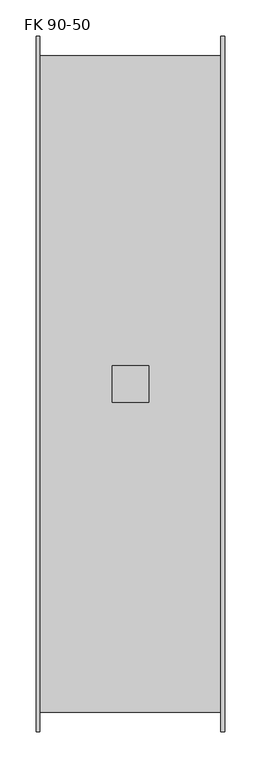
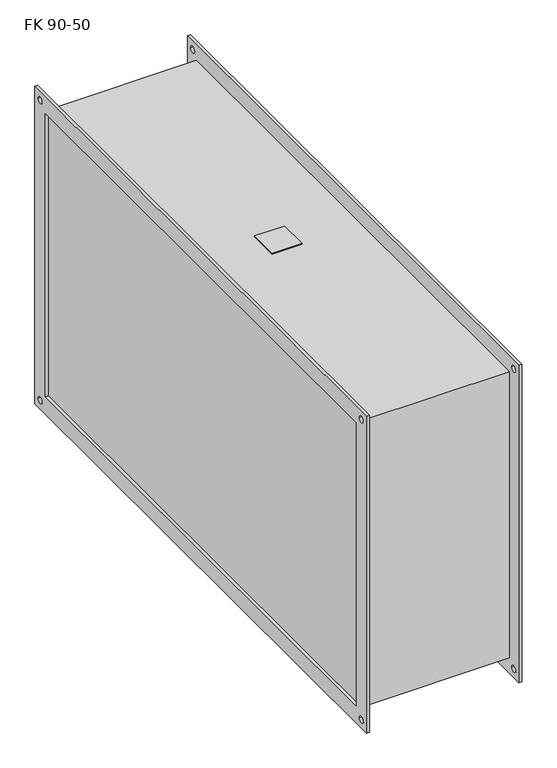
"""IFC4 building model written with IfcOpenShell, lengths in millimetres: damper geometry, KORF_Фильтр_Кассетный_FK : FK 90-50."""

from ifc_helpers import new_model, si_unit, point, frame, frame_2d, origin, place, context, project, spatial, polyline, circle_curve, trimmed, segment, composite_curve, outline, extrude, source, transform, mapped, element, save


def fk_90_50_c3d4b518(model_context):
    return source(origin(), model_context, "Body", "SweptSolid", [
        extrude(outline(polyline([(105.0, -25.0), (105.0, 25.0), (155.0, 25.0), (155.0, -25.0), (105.0, -25.0)])), frame((0.0, 0.0, 253.0), z_axis=(0.0, 0.0, 1.0), x_axis=(1.0, 0.0, 0.0)), (0.0, 0.0, 1.0), 2.0),
        extrude(outline(polyline([(-480.0, 280.0), (480.0, 280.0), (480.0, -280.0), (-480.0, -280.0), (-480.0, 280.0)]), holes=[polyline([(-450.0, 250.0), (-450.0, -250.0), (450.0, -250.0), (450.0, 250.0), (-450.0, 250.0)]), composite_curve([segment(trimmed(circle_curve(frame_2d((465.0, 265.0)), 5.5), [point((459.5, 265.0))], [point((470.5, 265.0))], True, "CARTESIAN"), True, "CONTINUOUS"), segment(trimmed(circle_curve(frame_2d((465.0, 265.0)), 5.5), [point((470.5, 265.0))], [point((459.5, 265.0))], True, "CARTESIAN"), True, "CONTINUOUS")], self_intersect=False), composite_curve([segment(trimmed(circle_curve(frame_2d((-465.0, 265.0)), 5.5), [point((-470.5, 265.0))], [point((-459.5, 265.0))], True, "CARTESIAN"), True, "CONTINUOUS"), segment(trimmed(circle_curve(frame_2d((-465.0, 265.0)), 5.5), [point((-459.5, 265.0))], [point((-470.5, 265.0))], True, "CARTESIAN"), True, "CONTINUOUS")], self_intersect=False), composite_curve([segment(trimmed(circle_curve(frame_2d((-465.0, -265.0)), 5.5), [point((-470.5, -265.0))], [point((-459.5, -265.0))], True, "CARTESIAN"), True, "CONTINUOUS"), segment(trimmed(circle_curve(frame_2d((-465.0, -265.0)), 5.5), [point((-459.5, -265.0))], [point((-470.5, -265.0))], True, "CARTESIAN"), True, "CONTINUOUS")], self_intersect=False), composite_curve([segment(trimmed(circle_curve(frame_2d((465.0, -265.0)), 5.5), [point((459.5, -265.0))], [point((470.5, -265.0))], True, "CARTESIAN"), True, "CONTINUOUS"), segment(trimmed(circle_curve(frame_2d((465.0, -265.0)), 5.5), [point((470.5, -265.0))], [point((459.5, -265.0))], True, "CARTESIAN"), True, "CONTINUOUS")], self_intersect=False)]), frame((255.0, 0.0, 0.0), z_axis=(1.0, 0.0, 0.0), x_axis=(0.0, 1.0, 0.0)), (0.0, 0.0, 1.0), 5.0),
        extrude(outline(polyline([(-480.0, 280.0), (480.0, 280.0), (480.0, -280.0), (-480.0, -280.0), (-480.0, 280.0)]), holes=[polyline([(-450.0, 250.0), (-450.0, -250.0), (450.0, -250.0), (450.0, 250.0), (-450.0, 250.0)]), composite_curve([segment(trimmed(circle_curve(frame_2d((465.0, 265.0)), 5.5), [point((459.5, 265.0))], [point((470.5, 265.0))], True, "CARTESIAN"), True, "CONTINUOUS"), segment(trimmed(circle_curve(frame_2d((465.0, 265.0)), 5.5), [point((470.5, 265.0))], [point((459.5, 265.0))], True, "CARTESIAN"), True, "CONTINUOUS")], self_intersect=False), composite_curve([segment(trimmed(circle_curve(frame_2d((-465.0, 265.0)), 5.5), [point((-470.5, 265.0))], [point((-459.5, 265.0))], True, "CARTESIAN"), True, "CONTINUOUS"), segment(trimmed(circle_curve(frame_2d((-465.0, 265.0)), 5.5), [point((-459.5, 265.0))], [point((-470.5, 265.0))], True, "CARTESIAN"), True, "CONTINUOUS")], self_intersect=False), composite_curve([segment(trimmed(circle_curve(frame_2d((-465.0, -265.0)), 5.5), [point((-470.5, -265.0))], [point((-459.5, -265.0))], True, "CARTESIAN"), True, "CONTINUOUS"), segment(trimmed(circle_curve(frame_2d((-465.0, -265.0)), 5.5), [point((-459.5, -265.0))], [point((-470.5, -265.0))], True, "CARTESIAN"), True, "CONTINUOUS")], self_intersect=False), composite_curve([segment(trimmed(circle_curve(frame_2d((465.0, -265.0)), 5.5), [point((459.5, -265.0))], [point((470.5, -265.0))], True, "CARTESIAN"), True, "CONTINUOUS"), segment(trimmed(circle_curve(frame_2d((465.0, -265.0)), 5.5), [point((470.5, -265.0))], [point((459.5, -265.0))], True, "CARTESIAN"), True, "CONTINUOUS")], self_intersect=False)]), frame((0.0, 0.0, 0.0), z_axis=(1.0, 0.0, 0.0), x_axis=(0.0, 1.0, 0.0)), (0.0, 0.0, 1.0), 5.0),
        extrude(outline(polyline([(255.0, 453.0), (255.0, -453.0), (5.0, -453.0), (5.0, 453.0), (255.0, 453.0)])), frame((0.0, 0.0, -253.0), z_axis=(0.0, 0.0, 1.0), x_axis=(1.0, 0.0, 0.0)), (0.0, 0.0, 1.0), 506.0),
    ])


if __name__ == "__main__":
    model = new_model("IFC4")
    model_context = context("Model", 3, world=origin())
    ifc_project = project(units=[si_unit("LENGTHUNIT", "METRE", prefix="MILLI")], contexts=[model_context])
    site = spatial("IfcSite", under=ifc_project)
    building = spatial("IfcBuilding", under=site)
    placement = place(None, origin())
    fk_90_50_shape = fk_90_50_c3d4b518(model_context)
    element("IfcDamper", 1, ObjectType="KORF_Фильтр_Кассетный_FK : FK 90-50", at=placement, inside=building, context=model_context, shape_type="MappedRepresentation", body=[
        mapped(fk_90_50_shape, transform((0.0, 0.0, 0.0), x_axis=(1.0, 0.0, 0.0), y_axis=(0.0, 1.0, 0.0), z_axis=(0.0, 0.0, 1.0))),
    ])
    save(model, "model.ifc")
